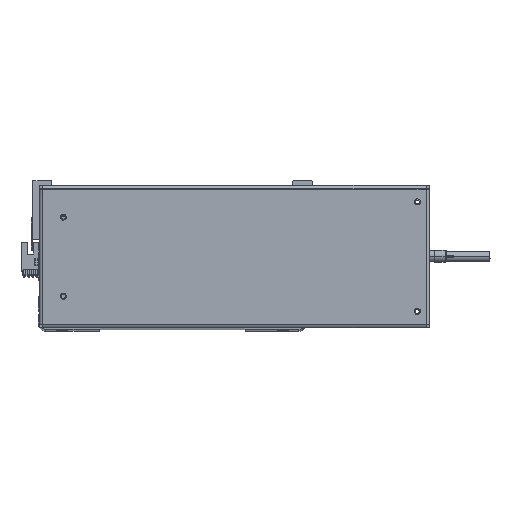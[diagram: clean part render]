
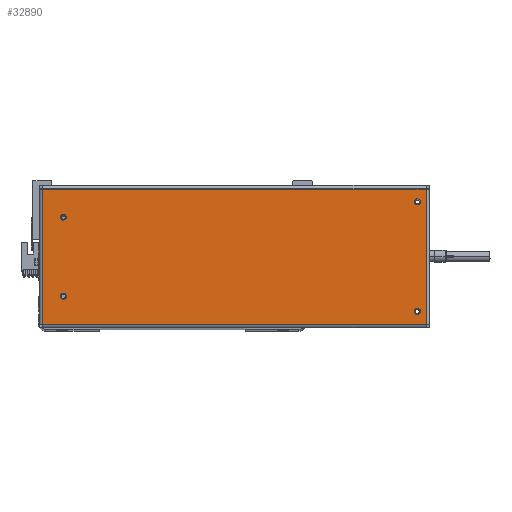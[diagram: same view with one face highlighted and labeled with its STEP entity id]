
A CAD part, top view. The second image highlights one B-rep face of the part: STEP entity #32890.
In plain terms, the highlighted planar face has unit normal (0, 0, 1).
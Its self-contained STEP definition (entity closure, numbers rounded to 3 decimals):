
#66 = ORIENTED_EDGE ( 'NONE', *, *, #33919, .F. ) ;
#487 = DIRECTION ( 'NONE',  ( -1., 0., 0. ) ) ;
#751 = CARTESIAN_POINT ( 'NONE',  ( 150.5, -45., 0. ) ) ;
#884 = DIRECTION ( 'NONE',  ( 0., 0., 1. ) ) ;
#1273 = EDGE_CURVE ( 'NONE', #6936, #12460, #28165, .T. ) ;
#1326 = EDGE_CURVE ( 'NONE', #6254, #13726, #32511, .T. ) ;
#1959 = FACE_BOUND ( 'NONE', #5566, .T. ) ;
#2796 = CARTESIAN_POINT ( 'NONE',  ( -143., 32.5, 0. ) ) ;
#3534 = AXIS2_PLACEMENT_3D ( 'NONE', #12098, #12350, #24415 ) ;
#4217 = EDGE_CURVE ( 'NONE', #13726, #6254, #30813, .T. ) ;
#5201 = CARTESIAN_POINT ( 'NONE',  ( -157.6, 55.6, 0. ) ) ;
#5223 = AXIS2_PLACEMENT_3D ( 'NONE', #15200, #36873, #24692 ) ;
#5366 = CIRCLE ( 'NONE', #16457, 2.5 ) ;
#5566 = EDGE_LOOP ( 'NONE', ( #66, #9947 ) ) ;
#5689 = AXIS2_PLACEMENT_3D ( 'NONE', #16129, #13033, #37788 ) ;
#6254 = VERTEX_POINT ( 'NONE', #13938 ) ;
#6568 = ORIENTED_EDGE ( 'NONE', *, *, #4217, .F. ) ;
#6900 = EDGE_LOOP ( 'NONE', ( #26251, #17040 ) ) ;
#6936 = VERTEX_POINT ( 'NONE', #29496 ) ;
#7354 = CARTESIAN_POINT ( 'NONE',  ( 153., 45., 0. ) ) ;
#7495 = ORIENTED_EDGE ( 'NONE', *, *, #31435, .T. ) ;
#7799 = LINE ( 'NONE', #29720, #26219 ) ;
#8217 = FACE_BOUND ( 'NONE', #6900, .T. ) ;
#8600 = CARTESIAN_POINT ( 'NONE',  ( 148., -45., 0. ) ) ;
#9131 = DIRECTION ( 'NONE',  ( 0., 0., 1. ) ) ;
#9456 = AXIS2_PLACEMENT_3D ( 'NONE', #23716, #32936, #17480 ) ;
#9586 = CARTESIAN_POINT ( 'NONE',  ( -157.6, -55.6, 0. ) ) ;
#9947 = ORIENTED_EDGE ( 'NONE', *, *, #22610, .F. ) ;
#10061 = CIRCLE ( 'NONE', #3534, 2.5 ) ;
#10630 = CIRCLE ( 'NONE', #5223, 2.5 ) ;
#10886 = VERTEX_POINT ( 'NONE', #2796 ) ;
#11179 = DIRECTION ( 'NONE',  ( 0., -1., 0. ) ) ;
#11391 = PLANE ( 'NONE',  #9456 ) ;
#11924 = VECTOR ( 'NONE', #11179, 1000. ) ;
#12098 = CARTESIAN_POINT ( 'NONE',  ( 150.5, -45., 0. ) ) ;
#12350 = DIRECTION ( 'NONE',  ( 0., 0., 1. ) ) ;
#12460 = VERTEX_POINT ( 'NONE', #8600 ) ;
#12541 = EDGE_CURVE ( 'NONE', #37240, #35461, #33594, .T. ) ;
#12559 = FACE_OUTER_BOUND ( 'NONE', #23068, .T. ) ;
#13033 = DIRECTION ( 'NONE',  ( 0., 0., 1. ) ) ;
#13124 = CARTESIAN_POINT ( 'NONE',  ( 157.6, 55.6, 0. ) ) ;
#13320 = EDGE_LOOP ( 'NONE', ( #32419, #6568 ) ) ;
#13567 = EDGE_CURVE ( 'NONE', #21346, #21054, #7799, .T. ) ;
#13597 = VERTEX_POINT ( 'NONE', #17489 ) ;
#13726 = VERTEX_POINT ( 'NONE', #16185 ) ;
#13938 = CARTESIAN_POINT ( 'NONE',  ( -138., -32.5, 0. ) ) ;
#14149 = ORIENTED_EDGE ( 'NONE', *, *, #12541, .F. ) ;
#14196 = CARTESIAN_POINT ( 'NONE',  ( 148., 45., 0. ) ) ;
#14348 = CARTESIAN_POINT ( 'NONE',  ( -140.5, -32.5, 0. ) ) ;
#14903 = DIRECTION ( 'NONE',  ( 0., 1., 0. ) ) ;
#15094 = CARTESIAN_POINT ( 'NONE',  ( -140.5, 32.5, 0. ) ) ;
#15200 = CARTESIAN_POINT ( 'NONE',  ( 150.5, 45., 0. ) ) ;
#16129 = CARTESIAN_POINT ( 'NONE',  ( -140.5, -32.5, 0. ) ) ;
#16185 = CARTESIAN_POINT ( 'NONE',  ( -143., -32.5, 0. ) ) ;
#16399 = EDGE_CURVE ( 'NONE', #12460, #6936, #10061, .T. ) ;
#16457 = AXIS2_PLACEMENT_3D ( 'NONE', #15094, #9131, #24169 ) ;
#16847 = VECTOR ( 'NONE', #38253, 1000. ) ;
#16925 = VERTEX_POINT ( 'NONE', #9586 ) ;
#17040 = ORIENTED_EDGE ( 'NONE', *, *, #16399, .F. ) ;
#17243 = LINE ( 'NONE', #38783, #11924 ) ;
#17480 = DIRECTION ( 'NONE',  ( -1., 0., 0. ) ) ;
#17489 = CARTESIAN_POINT ( 'NONE',  ( -138., 32.5, 0. ) ) ;
#18482 = ORIENTED_EDGE ( 'NONE', *, *, #28673, .F. ) ;
#18572 = DIRECTION ( 'NONE',  ( 0., 0., 1. ) ) ;
#19463 = ORIENTED_EDGE ( 'NONE', *, *, #20479, .T. ) ;
#20002 = AXIS2_PLACEMENT_3D ( 'NONE', #14348, #23269, #32637 ) ;
#20032 = VECTOR ( 'NONE', #487, 1000. ) ;
#20479 = EDGE_CURVE ( 'NONE', #21054, #33359, #22968, .T. ) ;
#21054 = VERTEX_POINT ( 'NONE', #13124 ) ;
#21280 = FACE_BOUND ( 'NONE', #13320, .T. ) ;
#21346 = VERTEX_POINT ( 'NONE', #31183 ) ;
#22610 = EDGE_CURVE ( 'NONE', #10886, #13597, #5366, .T. ) ;
#22968 = LINE ( 'NONE', #27852, #20032 ) ;
#23068 = EDGE_LOOP ( 'NONE', ( #7495, #30903, #32120, #19463 ) ) ;
#23269 = DIRECTION ( 'NONE',  ( 0., 0., 1. ) ) ;
#23399 = AXIS2_PLACEMENT_3D ( 'NONE', #32502, #29016, #34942 ) ;
#23716 = CARTESIAN_POINT ( 'NONE',  ( 157.7, 58.5, 0. ) ) ;
#24169 = DIRECTION ( 'NONE',  ( 1., 0., 0. ) ) ;
#24415 = DIRECTION ( 'NONE',  ( 1., 0., 0. ) ) ;
#24692 = DIRECTION ( 'NONE',  ( 1., 0., 0. ) ) ;
#24842 = DIRECTION ( 'NONE',  ( 1., 0., 0. ) ) ;
#24975 = CARTESIAN_POINT ( 'NONE',  ( -140.5, 32.5, 0. ) ) ;
#25100 = LINE ( 'NONE', #35151, #16847 ) ;
#25678 = FACE_BOUND ( 'NONE', #25817, .T. ) ;
#25817 = EDGE_LOOP ( 'NONE', ( #18482, #14149 ) ) ;
#25846 = AXIS2_PLACEMENT_3D ( 'NONE', #24975, #18572, #24842 ) ;
#26219 = VECTOR ( 'NONE', #14903, 1000. ) ;
#26251 = ORIENTED_EDGE ( 'NONE', *, *, #1273, .F. ) ;
#27852 = CARTESIAN_POINT ( 'NONE',  ( 157.7, 55.6, 0. ) ) ;
#28165 = CIRCLE ( 'NONE', #36291, 2.5 ) ;
#28673 = EDGE_CURVE ( 'NONE', #35461, #37240, #10630, .T. ) ;
#29016 = DIRECTION ( 'NONE',  ( 0., 0., 1. ) ) ;
#29496 = CARTESIAN_POINT ( 'NONE',  ( 153., -45., 0. ) ) ;
#29720 = CARTESIAN_POINT ( 'NONE',  ( 157.6, -55.6, 0. ) ) ;
#30813 = CIRCLE ( 'NONE', #20002, 2.5 ) ;
#30903 = ORIENTED_EDGE ( 'NONE', *, *, #32107, .T. ) ;
#31183 = CARTESIAN_POINT ( 'NONE',  ( 157.6, -55.6, 0. ) ) ;
#31435 = EDGE_CURVE ( 'NONE', #33359, #16925, #17243, .T. ) ;
#32107 = EDGE_CURVE ( 'NONE', #16925, #21346, #25100, .T. ) ;
#32120 = ORIENTED_EDGE ( 'NONE', *, *, #13567, .T. ) ;
#32419 = ORIENTED_EDGE ( 'NONE', *, *, #1326, .F. ) ;
#32502 = CARTESIAN_POINT ( 'NONE',  ( 150.5, 45., 0. ) ) ;
#32511 = CIRCLE ( 'NONE', #5689, 2.5 ) ;
#32637 = DIRECTION ( 'NONE',  ( 1., 0., 0. ) ) ;
#32890 = ADVANCED_FACE ( 'NONE', ( #21280, #1959, #8217, #25678, #12559 ), #11391, .F. ) ;
#32936 = DIRECTION ( 'NONE',  ( 0., 0., -1. ) ) ;
#33359 = VERTEX_POINT ( 'NONE', #5201 ) ;
#33594 = CIRCLE ( 'NONE', #23399, 2.5 ) ;
#33919 = EDGE_CURVE ( 'NONE', #13597, #10886, #36711, .T. ) ;
#34942 = DIRECTION ( 'NONE',  ( 1., 0., 0. ) ) ;
#34967 = DIRECTION ( 'NONE',  ( 1., 0., 0. ) ) ;
#35151 = CARTESIAN_POINT ( 'NONE',  ( -157.7, -55.6, 0. ) ) ;
#35461 = VERTEX_POINT ( 'NONE', #7354 ) ;
#36291 = AXIS2_PLACEMENT_3D ( 'NONE', #751, #884, #34967 ) ;
#36711 = CIRCLE ( 'NONE', #25846, 2.5 ) ;
#36873 = DIRECTION ( 'NONE',  ( 0., 0., 1. ) ) ;
#37240 = VERTEX_POINT ( 'NONE', #14196 ) ;
#37788 = DIRECTION ( 'NONE',  ( 1., 0., 0. ) ) ;
#38253 = DIRECTION ( 'NONE',  ( 1., 0., 0. ) ) ;
#38783 = CARTESIAN_POINT ( 'NONE',  ( -157.6, 55.6, 0. ) ) ;
